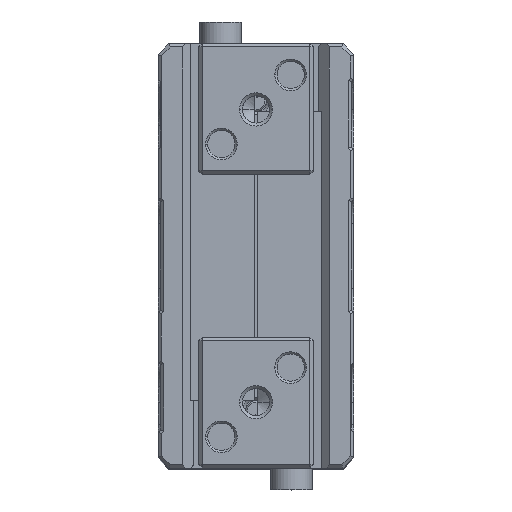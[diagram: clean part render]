
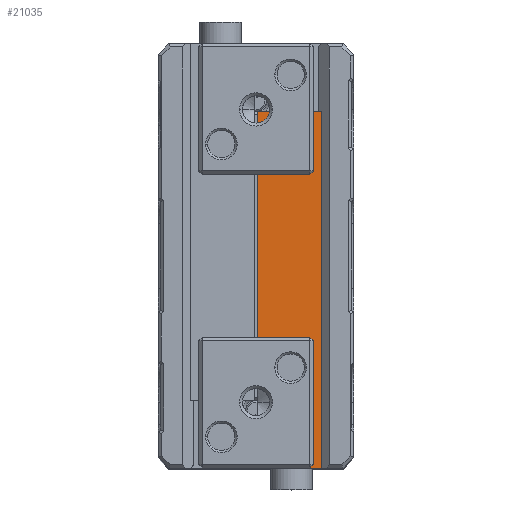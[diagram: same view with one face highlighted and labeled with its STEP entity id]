
A CAD part, top view. The second image highlights one B-rep face of the part: STEP entity #21035.
In plain terms, the highlighted planar face has unit normal (0, 0, 1) as drawn and (0, 1, 0) by its records, which use the part's own axes.
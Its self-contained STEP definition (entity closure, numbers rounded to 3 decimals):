
#128 = DIRECTION ( 'NONE',  ( -0.707, 0., -0.707 ) ) ;
#212 = EDGE_CURVE ( 'NONE', #31377, #52483, #27914, .T. ) ;
#1040 = VERTEX_POINT ( 'NONE', #38600 ) ;
#2088 = EDGE_CURVE ( 'NONE', #25604, #31377, #7602, .T. ) ;
#2773 = EDGE_CURVE ( 'NONE', #37132, #14981, #32392, .T. ) ;
#3077 = CARTESIAN_POINT ( 'NONE',  ( -17.934, 16.339, 34.441 ) ) ;
#3863 = CARTESIAN_POINT ( 'NONE',  ( -18.234, 16.339, 35.241 ) ) ;
#4013 = LINE ( 'NONE', #30298, #37942 ) ;
#4456 = EDGE_CURVE ( 'NONE', #1040, #54977, #4013, .T. ) ;
#4733 = CARTESIAN_POINT ( 'NONE',  ( 14.566, 16.339, 29.341 ) ) ;
#5708 = ORIENTED_EDGE ( 'NONE', *, *, #212, .F. ) ;
#6076 = DIRECTION ( 'NONE',  ( 1., 0., 0. ) ) ;
#7011 = EDGE_LOOP ( 'NONE', ( #5708, #32043, #46227, #54548, #10918, #28255, #47696, #42386 ) ) ;
#7061 = VECTOR ( 'NONE', #21062, 1000. ) ;
#7602 = LINE ( 'NONE', #16368, #39971 ) ;
#7765 = EDGE_CURVE ( 'NONE', #37132, #30332, #43111, .T. ) ;
#7794 = LINE ( 'NONE', #3863, #7061 ) ;
#10918 = ORIENTED_EDGE ( 'NONE', *, *, #7765, .T. ) ;
#11846 = DIRECTION ( 'NONE',  ( 0., 0., -1. ) ) ;
#14267 = CARTESIAN_POINT ( 'NONE',  ( -6.534, 16.339, 34.441 ) ) ;
#14359 = LINE ( 'NONE', #31357, #55842 ) ;
#14584 = VECTOR ( 'NONE', #6076, 1000. ) ;
#14981 = VERTEX_POINT ( 'NONE', #14267 ) ;
#16368 = CARTESIAN_POINT ( 'NONE',  ( -6.234, 16.339, 23.941 ) ) ;
#17492 = CARTESIAN_POINT ( 'NONE',  ( -6.234, 16.339, 29.341 ) ) ;
#18362 = LINE ( 'NONE', #35616, #24468 ) ;
#20428 = EDGE_CURVE ( 'NONE', #1040, #30332, #7794, .T. ) ;
#21035 = ADVANCED_FACE ( 'NONE', ( #32580 ), #28881, .T. ) ;
#21062 = DIRECTION ( 'NONE',  ( 0., 0., -1. ) ) ;
#24345 = CARTESIAN_POINT ( 'NONE',  ( -1.834, 16.339, 32.341 ) ) ;
#24468 = VECTOR ( 'NONE', #52843, 1000. ) ;
#25604 = VERTEX_POINT ( 'NONE', #31907 ) ;
#27914 = LINE ( 'NONE', #40898, #50906 ) ;
#28255 = ORIENTED_EDGE ( 'NONE', *, *, #20428, .F. ) ;
#28295 = DIRECTION ( 'NONE',  ( 0., 1., 0. ) ) ;
#28881 = PLANE ( 'NONE',  #39774 ) ;
#29456 = DIRECTION ( 'NONE',  ( 0., 0., 1. ) ) ;
#30298 = CARTESIAN_POINT ( 'NONE',  ( -19.648, 16.339, 35.241 ) ) ;
#30332 = VERTEX_POINT ( 'NONE', #30929 ) ;
#30385 = CARTESIAN_POINT ( 'NONE',  ( -17.934, 16.339, 34.441 ) ) ;
#30929 = CARTESIAN_POINT ( 'NONE',  ( -18.234, 16.339, 34.141 ) ) ;
#31357 = CARTESIAN_POINT ( 'NONE',  ( -6.534, 16.339, 34.441 ) ) ;
#31377 = VERTEX_POINT ( 'NONE', #17492 ) ;
#31907 = CARTESIAN_POINT ( 'NONE',  ( -6.234, 16.339, 34.141 ) ) ;
#32043 = ORIENTED_EDGE ( 'NONE', *, *, #2088, .F. ) ;
#32392 = LINE ( 'NONE', #49586, #14584 ) ;
#32580 = FACE_OUTER_BOUND ( 'NONE', #7011, .T. ) ;
#35161 = CARTESIAN_POINT ( 'NONE',  ( 14.566, 16.339, 35.241 ) ) ;
#35616 = CARTESIAN_POINT ( 'NONE',  ( 14.566, 16.339, 34.241 ) ) ;
#37132 = VERTEX_POINT ( 'NONE', #3077 ) ;
#37942 = VECTOR ( 'NONE', #43560, 1000. ) ;
#38600 = CARTESIAN_POINT ( 'NONE',  ( -18.234, 16.339, 35.241 ) ) ;
#39774 = AXIS2_PLACEMENT_3D ( 'NONE', #24345, #28295, #29456 ) ;
#39971 = VECTOR ( 'NONE', #11846, 1000. ) ;
#40898 = CARTESIAN_POINT ( 'NONE',  ( -19.721, 16.339, 29.341 ) ) ;
#41117 = EDGE_CURVE ( 'NONE', #25604, #14981, #14359, .T. ) ;
#42386 = ORIENTED_EDGE ( 'NONE', *, *, #54198, .T. ) ;
#43111 = LINE ( 'NONE', #30385, #44399 ) ;
#43560 = DIRECTION ( 'NONE',  ( 1., 0., 0. ) ) ;
#44399 = VECTOR ( 'NONE', #128, 1000. ) ;
#45159 = DIRECTION ( 'NONE',  ( 1., 0., 0. ) ) ;
#46227 = ORIENTED_EDGE ( 'NONE', *, *, #41117, .T. ) ;
#47696 = ORIENTED_EDGE ( 'NONE', *, *, #4456, .T. ) ;
#48594 = DIRECTION ( 'NONE',  ( -0.707, 0., 0.707 ) ) ;
#49586 = CARTESIAN_POINT ( 'NONE',  ( -1.834, 16.339, 34.441 ) ) ;
#50906 = VECTOR ( 'NONE', #45159, 1000. ) ;
#52483 = VERTEX_POINT ( 'NONE', #4733 ) ;
#52843 = DIRECTION ( 'NONE',  ( 0., 0., -1. ) ) ;
#54198 = EDGE_CURVE ( 'NONE', #54977, #52483, #18362, .T. ) ;
#54548 = ORIENTED_EDGE ( 'NONE', *, *, #2773, .F. ) ;
#54977 = VERTEX_POINT ( 'NONE', #35161 ) ;
#55842 = VECTOR ( 'NONE', #48594, 1000. ) ;
